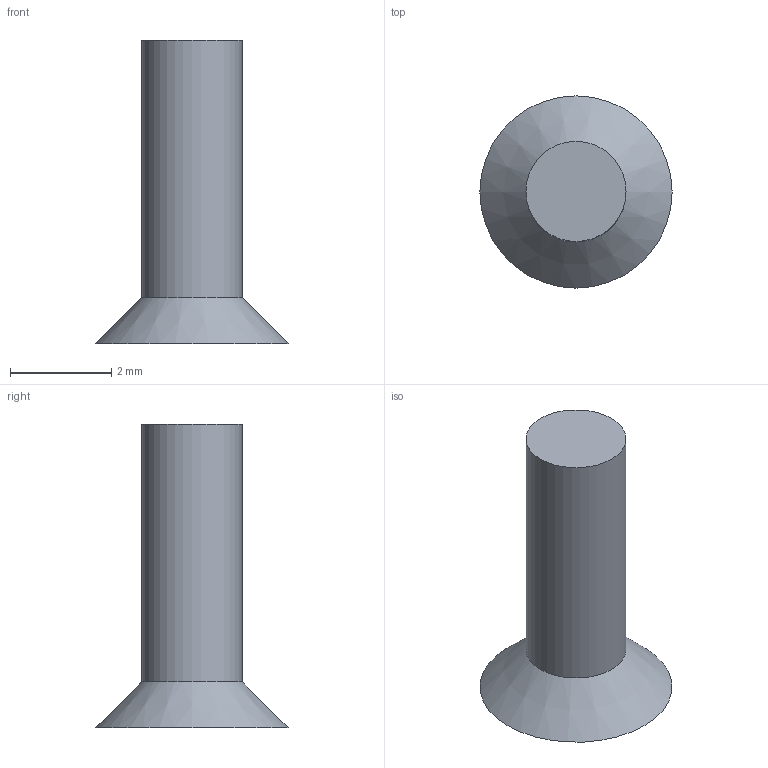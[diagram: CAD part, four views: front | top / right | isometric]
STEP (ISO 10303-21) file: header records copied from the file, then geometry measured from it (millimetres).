
FILE_DESCRIPTION(('Open CASCADE Model'),'2;1');
FILE_NAME('Open CASCADE Shape Model','2026-09-08T12:38:26',('Author'),( 'Open CASCADE'),'Open CASCADE STEP processor 7.7','Open CASCADE 7.7' ,'Unknown');
FILE_SCHEMA(('AUTOMOTIVE_DESIGN { 1 0 10303 214 1 1 1 1 }'));
Length unit declared in the file: millimetre
Products named in the file (1): Open CASCADE STEP translator 7.7 20
Bounding box: 3.8 x 3.8 x 6 mm (x, y, z)
Volume: 21.8 mm3; surface area: 57.8 mm2
Topology: 1 solids, 1 shells, 4 faces, 5 edges, 3 vertices
Faces by surface type: plane 2, cone 1, cylinder 1
Full cylindrical faces by diameter (mm): 1.98 x1
Entity records: 159 total; most frequent: DIRECTION 28, CARTESIAN_POINT 23, ORIENTED_EDGE 10, PCURVE 10, DEFINITIONAL_REPRESENTATION 10, LINE 10, VECTOR 10, AXIS2_PLACEMENT_3D 8
